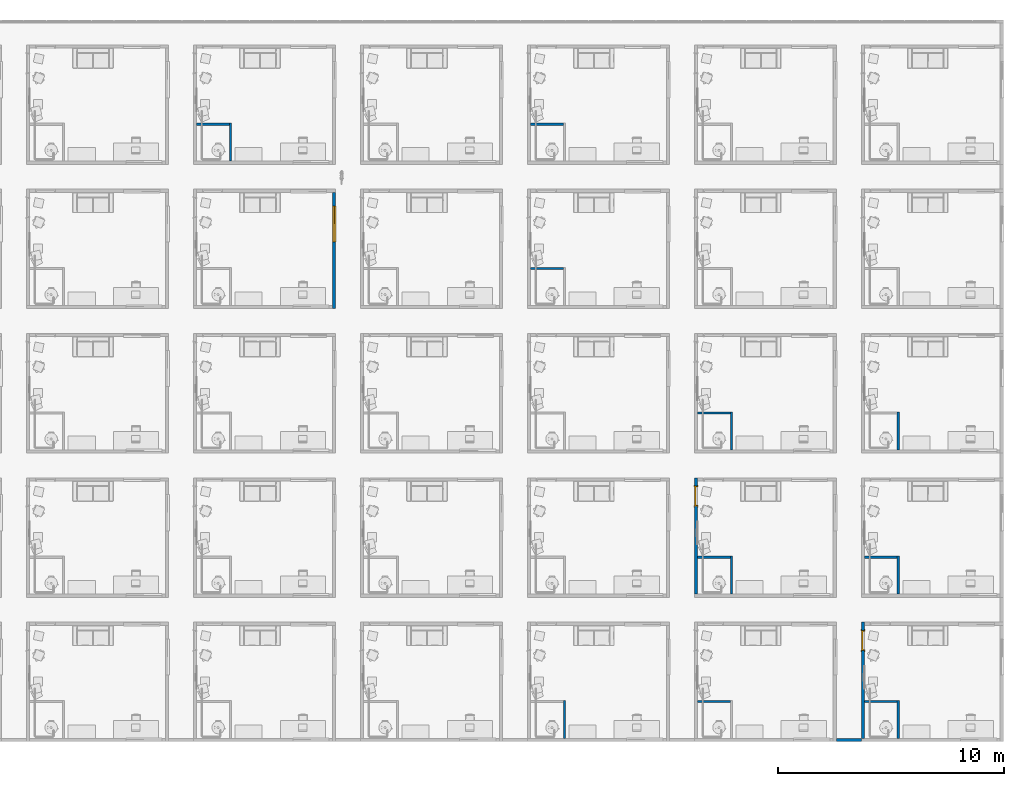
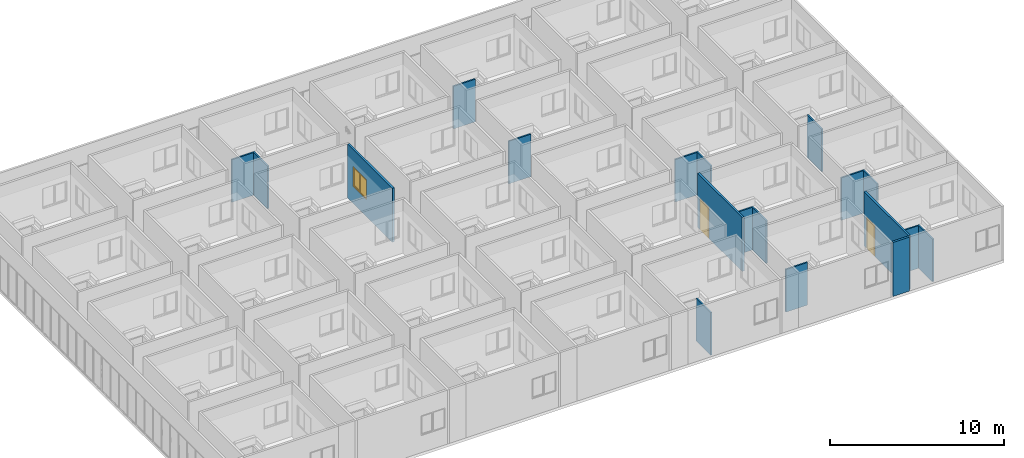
# One storey, part 8 of 69: 19 walls, 2 doors, 1 window, 3 openings.
"""IFC4 building model written with IfcOpenShell, lengths in centimetres."""

from ifc_helpers import new_model, entity, si_unit, converted_unit, derived_unit, direction, frame, origin, place, context, subcontext, project, spatial, indexed_curve, outline, extrude, polygons, source, transform, mapped, material, constituent, constituent_set, type_object, type_shapes, element, fill, save


model = new_model("IFC4")

# Units and contexts
model_context = context("Model", 3, precision=0.001, world=origin(), true_north=direction((6.123233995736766e-17, 1.0)))
body_context = subcontext(model_context, "Body", "Model", "MODEL_VIEW")
ifc_project = project(units=[si_unit("LENGTHUNIT", "METRE", prefix="CENTI"), si_unit("AREAUNIT", "SQUARE_METRE"), si_unit("VOLUMEUNIT", "CUBIC_METRE"), derived_unit("THERMALTRANSMITTANCEUNIT", [(si_unit("MASSUNIT", "GRAM", prefix="KILO"), 1), (si_unit("THERMODYNAMICTEMPERATUREUNIT", "KELVIN"), -1), (si_unit("TIMEUNIT", "SECOND"), -3)]), converted_unit("PLANEANGLEUNIT", "DEGREE", entity("IfcPlaneAngleMeasure", 0.017453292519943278), si_unit("PLANEANGLEUNIT", "RADIAN"), dimensions=[0, 0, 0, 0, 0, 0, 0]), derived_unit("MASSDENSITYUNIT", [(si_unit("MASSUNIT", "GRAM", prefix="KILO"), 1), (si_unit("LENGTHUNIT", "METRE"), -3)]), derived_unit("VAPORPERMEABILITYUNIT", [(si_unit("LENGTHUNIT", "METRE"), -1), (si_unit("TIMEUNIT", "SECOND"), 1)]), derived_unit("USERDEFINED", [(si_unit("MASSUNIT", "GRAM", prefix="KILO"), 1), (si_unit("TIMEUNIT", "SECOND"), -3), (si_unit("LENGTHUNIT", "METRE"), 3), (si_unit("ELECTRICCURRENTUNIT", "AMPERE"), -2)]), derived_unit("SPECIFICHEATCAPACITYUNIT", [(si_unit("THERMODYNAMICTEMPERATUREUNIT", "KELVIN"), -1), (si_unit("LENGTHUNIT", "METRE"), 2), (si_unit("TIMEUNIT", "SECOND"), -2)]), derived_unit("THERMALCONDUCTANCEUNIT", [(si_unit("MASSUNIT", "GRAM", prefix="KILO"), 1), (si_unit("THERMODYNAMICTEMPERATUREUNIT", "KELVIN"), -1), (si_unit("TIMEUNIT", "SECOND"), -3), (si_unit("LENGTHUNIT", "METRE"), 1)]), si_unit("PRESSUREUNIT", "PASCAL"), derived_unit("MODULUSOFELASTICITYUNIT", [(si_unit("MASSUNIT", "GRAM", prefix="KILO"), 1), (si_unit("LENGTHUNIT", "METRE"), -1), (si_unit("TIMEUNIT", "SECOND"), -2)]), derived_unit("THERMALEXPANSIONCOEFFICIENTUNIT", [(si_unit("THERMODYNAMICTEMPERATUREUNIT", "KELVIN"), -1)])], contexts=[model_context])

# Site, building, storey
site_placement = place(None, origin())
site = spatial("IfcSite", under=ifc_project, at=site_placement, Name="Default", CompositionType="ELEMENT")
building_placement = place(site_placement, origin())
building = spatial("IfcBuilding", under=site, at=building_placement, Name="IDS Escape Game Building", CompositionType="ELEMENT")
storey_placement = place(building_placement, origin())
storey = spatial("IfcBuildingStorey", under=building, at=storey_placement, Name="00_Ground Floor", CompositionType="ELEMENT", Elevation=0.0)

# Wall, opening, door
ifc_material_1 = material(Name="ARC_FME.g2_Fg2 Masonry_00_gen_BERSnl", Category="g - klei")
wall_type_1 = type_object("IfcWallType", Name="Basic Wall:ARC_22.10_WA_LB_SB14_gen_BERSnl", PredefinedType="STANDARD")
wall_1_placement = place(storey_placement, frame((4428.0, 527.0, 0.0), z_axis=(0.0, 0.0, 1.0), x_axis=(0.0, -1.0, 0.0)))
wall_1 = element("IfcWall", 1, at=wall_1_placement, inside=storey, type_object=wall_type_1, material=ifc_material_1, Name="Basic Wall:ARC_22.10_WA_LB_SB14_gen_BERSnl", ObjectType="Basic Wall:ARC_22.10_WA_LB_SB14_gen_BERSnl", PredefinedType="NOTDEFINED", context=body_context, shape_type="Tessellation", body=[
    polygons([(513.9999999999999, -7.000000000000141, 380.0), (0.0, -7.000000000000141, 380.0), (0.0, -7.000000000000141, 0.0), (35.99999999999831, -7.000000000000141, 0.0), (35.99999999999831, -7.000000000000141, 215.00000000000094), (125.99999999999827, -7.000000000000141, 215.00000000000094), (125.99999999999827, -7.000000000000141, 0.0), (513.9999999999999, -7.000000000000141, 0.0), (0.0, 7.000000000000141, 380.0), (13.999999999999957, 7.000000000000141, 380.0), (513.9999999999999, 7.000000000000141, 380.0), (513.9999999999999, 7.000000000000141, 0.0), (355.9999999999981, 7.000000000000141, 0.0), (345.9999999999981, 7.000000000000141, 0.0), (125.99999999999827, 7.000000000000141, 0.0), (125.99999999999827, 7.000000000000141, 215.00000000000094), (35.99999999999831, 7.000000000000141, 215.00000000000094), (35.99999999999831, 7.000000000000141, 0.0), (13.999999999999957, 7.000000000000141, 0.0), (0.0, 7.000000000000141, 0.0)], [[[1, 2, 3, 4, 5, 6, 7, 8]], [[9, 10, 11, 12, 13, 14, 15, 16, 17, 18, 19, 20]], [[3, 20, 19, 18, 4]], [[2, 1, 11, 10, 9]], [[17, 5, 4, 18]], [[6, 16, 15, 7]], [[5, 17, 16, 6]], [[3, 2, 9, 20]], [[1, 8, 12, 11]], [[12, 8, 7, 15, 14, 13]]], closed=True),
])
opening_1_placement = place(wall_1_placement, frame((527.0, -4428.0, 0.0), z_axis=(0.0, 0.0, 1.0), x_axis=(0.0, 1.0, 0.0)))
opening_1 = element("IfcOpeningElement", 2, at=opening_1_placement, cuts=wall_1, Name="Basic Wall:ARC_22.10_WA_LB_SB14_gen_BERSnl", PredefinedType="OPENING", context=body_context, shape_type="SweptSolid", body=[
    extrude(outline(indexed_curve([(-137.49999999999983, -45.0), (137.49999999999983, -45.0), (137.49999999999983, 44.99999999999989), (-137.49999999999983, 44.99999999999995), (-137.49999999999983, -45.0)], self_intersect=False)), frame((4338.0, 446.0, 77.50000000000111), z_axis=(1.0, 0.0, 0.0), x_axis=(0.0, 0.0, 1.0)), (0.0, 0.0, 1.0), 166.00000000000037),
])
ifc_material_2 = material(Name="ARC_FME.i3_wood_00_gen_BERSnl", Category="i - hout")
door_type = type_object("IfcDoorType", Name="ARC_32.30_DO_WB_binnendeur enkel draaiend met void_gen_BERSnl:Fire Exit_830x2115_EI60", OperationType="SINGLE_SWING_RIGHT", PredefinedType="DOOR", material=ifc_material_2)
shared_shape_1 = source(origin(), body_context, "Body", "Tessellation", [
    extrude(outline(indexed_curve([(-41.49999999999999, -3.749999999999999), (41.49999999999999, -3.749999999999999), (41.49999999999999, 3.75), (-41.49999999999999, 3.75), (-41.49999999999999, -3.749999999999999)], self_intersect=False)), frame((45.0, 79.24999999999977, 60.0), z_axis=(0.0, 0.0, 1.0), x_axis=(-1.0, 0.0, 0.0)), (0.0, 0.0, 1.0), 211.50000000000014),
    polygons([(88.99999999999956, 82.99999999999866, 59.999999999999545), (88.9999999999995, 67.99999999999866, 59.999999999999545), (94.99999999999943, 67.99999999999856, 59.999999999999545), (94.99999999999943, 66.49999999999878, 59.999999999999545), (84.99999999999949, 66.4999999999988, 59.999999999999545), (84.99999999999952, 75.49999999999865, 59.999999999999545), (86.49999999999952, 75.49999999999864, 59.999999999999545), (86.49999999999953, 84.49999999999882, 59.999999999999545), (94.99999999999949, 84.49999999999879, 59.999999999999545), (94.99999999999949, 82.99999999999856, 59.999999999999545), (88.99999999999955, 82.99999999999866, 274.0000000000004), (88.9999999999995, 67.99999999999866, 274.0000000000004), (0.9999999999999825, 67.99999999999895, 274.0000000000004), (0.9999999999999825, 67.99999999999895, 59.99999999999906), (-4.999999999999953, 67.99999999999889, 59.99999999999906), (-4.999999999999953, 67.99999999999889, 280.00000000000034), (94.99999999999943, 67.99999999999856, 280.00000000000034), (94.99999999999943, 66.49999999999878, 280.00000000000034), (-4.999999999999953, 66.4999999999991, 280.00000000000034), (-4.999999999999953, 66.4999999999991, 59.99999999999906), (4.999999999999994, 66.49999999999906, 59.99999999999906), (4.999999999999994, 66.49999999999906, 270.00000000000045), (84.99999999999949, 66.4999999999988, 270.00000000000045), (84.99999999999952, 75.49999999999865, 270.00000000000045), (5.000000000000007, 75.4999999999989, 270.00000000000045), (5.0, 75.4999999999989, 59.99999999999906), (3.5000000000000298, 75.4999999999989, 59.99999999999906), (3.500000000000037, 75.4999999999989, 271.50000000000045), (86.4999999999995, 75.49999999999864, 271.50000000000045), (86.49999999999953, 84.49999999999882, 271.50000000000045), (3.5000000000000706, 84.49999999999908, 271.50000000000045), (3.500000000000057, 84.49999999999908, 59.99999999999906), (-4.999999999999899, 84.4999999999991, 59.99999999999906), (-4.999999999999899, 84.4999999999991, 280.00000000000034), (94.99999999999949, 84.49999999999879, 280.00000000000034), (94.99999999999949, 82.99999999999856, 280.00000000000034), (-4.999999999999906, 82.99999999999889, 280.00000000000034), (-4.999999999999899, 82.99999999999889, 59.99999999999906), (1.0000000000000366, 82.99999999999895, 59.99999999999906), (1.0000000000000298, 82.99999999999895, 274.0000000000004)], [[[1, 2, 3, 4, 5, 6, 7, 8, 9, 10]], [[2, 1, 11, 12]], [[3, 2, 12, 13, 14, 15, 16, 17]], [[4, 3, 17, 18]], [[5, 4, 18, 19, 20, 21, 22, 23]], [[6, 5, 23, 24]], [[7, 6, 24, 25, 26, 27, 28, 29]], [[8, 7, 29, 30]], [[9, 8, 30, 31, 32, 33, 34, 35]], [[10, 9, 35, 36]], [[1, 10, 36, 37, 38, 39, 40, 11]], [[37, 34, 33, 38]], [[39, 38, 33, 32, 27, 26, 21, 20, 15, 14]], [[13, 40, 39, 14]], [[31, 28, 27, 32]], [[25, 22, 21, 26]], [[19, 16, 15, 20]], [[36, 35, 34, 37]], [[30, 29, 28, 31]], [[24, 23, 22, 25]], [[18, 17, 16, 19]], [[12, 11, 40, 13]]], closed=True),
])
type_shapes(door_type, [shared_shape_1])
door_1_placement = place(opening_1_placement, frame((4504.0, 401.0, -60.0), z_axis=(0.0, 0.0, 1.0), x_axis=(0.0, 1.0, 0.0)))
door_1 = element("IfcDoor", 3, at=door_1_placement, inside=storey, type_object=door_type, material=ifc_material_2, Name="ARC_32.30_DO_WB_binnendeur enkel draaiend met void_gen_BERSnl:Fire Exit_830x2115_EI60", ObjectType="ARC_32.30_DO_WB_binnendeur enkel draaiend met void_gen_BERSnl:Fire Exit_830x2115_EI60", OverallHeight=274.99999999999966, OverallWidth=89.9999999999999, PredefinedType="DOOR", context=body_context, shape_type="MappedRepresentation", body=[
    mapped(shared_shape_1, transform((0.0, 0.0, 0.0), scale=1.0)),
])
fill(opening_1, door_1)

wall_2_placement = place(storey_placement, frame((3690.0, 1165.0, 0.0), z_axis=(0.0, 0.0, 1.0), x_axis=(0.0, -1.0, 0.0)))
wall_2 = element("IfcWall", 4, at=wall_2_placement, inside=storey, type_object=wall_type_1, material=ifc_material_1, Name="Basic Wall:ARC_22.10_WA_LB_SB14_gen_BERSnl", ObjectType="Basic Wall:ARC_22.10_WA_LB_SB14_gen_BERSnl", PredefinedType="NOTDEFINED", context=body_context, shape_type="Tessellation", body=[
    polygons([(514.0000000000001, -6.999999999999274, 380.0), (0.0, -6.999999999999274, 380.0), (0.0, -6.999999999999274, 0.0), (35.99999999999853, -6.999999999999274, 0.0), (35.99999999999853, -6.999999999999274, 215.00000000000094), (125.99999999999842, -6.999999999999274, 215.00000000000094), (125.99999999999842, -6.999999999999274, 0.0), (514.0000000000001, -6.999999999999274, 0.0), (0.0, 7.000000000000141, 380.0), (14.000000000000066, 7.000000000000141, 380.0), (514.0000000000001, 7.000000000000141, 380.0), (514.0000000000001, 7.000000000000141, 0.0), (355.99999999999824, 7.000000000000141, 0.0), (345.99999999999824, 7.000000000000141, 0.0), (125.99999999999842, 7.000000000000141, 0.0), (125.99999999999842, 7.000000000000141, 215.00000000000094), (35.99999999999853, 7.000000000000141, 215.00000000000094), (35.99999999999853, 7.000000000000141, 0.0), (14.000000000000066, 7.000000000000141, 0.0), (0.0, 7.000000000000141, 0.0)], [[[1, 2, 3, 4, 5, 6, 7, 8]], [[9, 10, 11, 12, 13, 14, 15, 16, 17, 18, 19, 20]], [[3, 20, 19, 18, 4]], [[2, 1, 11, 10, 9]], [[17, 5, 4, 18]], [[6, 16, 15, 7]], [[5, 17, 16, 6]], [[3, 2, 9, 20]], [[1, 8, 12, 11]], [[12, 8, 7, 15, 14, 13]]], closed=True),
])
opening_2_placement = place(wall_2_placement, frame((1165.0, -3690.0, 0.0), z_axis=(0.0, 0.0, 1.0), x_axis=(0.0, 1.0, 0.0)))
opening_2 = element("IfcOpeningElement", 5, at=opening_2_placement, cuts=wall_2, Name="Basic Wall:ARC_22.10_WA_LB_SB14_gen_BERSnl", PredefinedType="OPENING", context=body_context, shape_type="SweptSolid", body=[
    extrude(outline(indexed_curve([(-137.49999999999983, -44.99999999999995), (137.49999999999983, -44.99999999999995), (137.49999999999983, 44.99999999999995), (-137.49999999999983, 44.99999999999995), (-137.49999999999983, -44.99999999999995)], self_intersect=False)), frame((3600.0, 1084.0, 77.50000000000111), z_axis=(1.0, 0.0, 0.0), x_axis=(0.0, 0.0, 1.0)), (0.0, 0.0, 1.0), 166.00000000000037),
])
door_2_placement = place(opening_2_placement, frame((3766.0, 1039.0, -60.0), z_axis=(0.0, 0.0, 1.0), x_axis=(0.0, 1.0, 0.0)))
door_2 = element("IfcDoor", 6, at=door_2_placement, inside=storey, type_object=door_type, material=ifc_material_2, Name="ARC_32.30_DO_WB_binnendeur enkel draaiend met void_gen_BERSnl:Fire Exit_830x2115_EI60", ObjectType="ARC_32.30_DO_WB_binnendeur enkel draaiend met void_gen_BERSnl:Fire Exit_830x2115_EI60", OverallHeight=274.99999999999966, OverallWidth=89.9999999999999, PredefinedType="DOOR", context=body_context, shape_type="MappedRepresentation", body=[
    mapped(shared_shape_1, transform((0.0, 0.0, 0.0), scale=1.0)),
])
fill(opening_2, door_2)

# Wall, opening, window
wall_3_placement = place(storey_placement, frame((2090.0, 1913.0, 0.0), z_axis=(0.0, 0.0, 1.0), x_axis=(0.0, 1.0, 0.0)))
wall_3 = element("IfcWall", 7, at=wall_3_placement, inside=storey, type_object=wall_type_1, material=ifc_material_1, Name="Basic Wall:ARC_22.10_WA_LB_SB14_gen_BERSnl", ObjectType="Basic Wall:ARC_22.10_WA_LB_SB14_gen_BERSnl", PredefinedType="NOTDEFINED", context=body_context, shape_type="Tessellation", body=[
    polygons([(0.0, -6.999999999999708, 0.0), (513.9999999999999, -6.999999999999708, 0.0), (513.9999999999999, -6.999999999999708, 380.0), (0.0, -6.999999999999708, 380.0), (454.00000000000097, -6.999999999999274, 260.00000000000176), (454.00000000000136, -6.999999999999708, 120.0), (294.00000000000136, -6.999999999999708, 120.00000000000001), (294.00000000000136, -6.999999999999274, 260.00000000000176), (454.00000000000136, 7.000000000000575, 120.0), (454.00000000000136, 7.000000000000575, 260.0000000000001), (294.00000000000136, 7.000000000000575, 260.0000000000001), (294.00000000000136, 7.000000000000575, 120.00000000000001), (0.0, 7.000000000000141, 0.0), (0.0, 7.000000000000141, 380.0), (14.000000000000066, 7.000000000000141, 380.0), (513.9999999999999, 7.000000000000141, 380.0), (513.9999999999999, 7.000000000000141, 0.0), (14.000000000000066, 7.000000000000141, 0.0)], [[[1, 2, 3, 4], [5, 6, 7, 8]], [[13, 14, 15, 16, 17, 18], [9, 10, 11, 12]], [[2, 1, 13, 18, 17]], [[4, 3, 16, 15, 14]], [[10, 9, 6, 5]], [[7, 12, 11, 8]], [[10, 5, 8, 11]], [[12, 7, 6, 9]], [[1, 4, 14, 13]], [[3, 2, 17, 16]]], closed=True),
])
opening_3_placement = place(wall_3_placement, frame((-1913.0, 2090.0, 120.0), z_axis=(0.0, 0.0, 1.0), x_axis=(0.0, -1.0, 0.0)))
opening_3 = element("IfcOpeningElement", 8, at=opening_3_placement, cuts=wall_3, Name="Basic Wall:ARC_22.10_WA_LB_SB14_gen_BERSnl", PredefinedType="OPENING", context=body_context, shape_type="Tessellation", body=[
    polygons([(2082.9999999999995, 2367.0000000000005, 0.0), (2082.9999999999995, 2367.0000000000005, -1.0), (2077.999999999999, 2367.0000000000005, -1.0), (2077.999999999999, 2367.0000000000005, 0.0), (2082.9999999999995, 2207.0000000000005, 0.0), (2077.999999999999, 2207.0000000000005, 0.0), (2077.999999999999, 2207.0000000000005, -1.0), (2082.9999999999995, 2207.0000000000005, -1.0), (2082.999999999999, 2362.0000000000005, 0.0), (2082.999999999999, 2212.0000000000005, 0.0), (2077.9999999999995, 2212.0000000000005, 0.0), (2077.9999999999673, 2212.0, 134.9999999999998), (2077.9999999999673, 2362.0000000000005, 134.9999999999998), (2077.9999999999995, 2362.0000000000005, 0.0), (2102.0368251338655, 2367.0000000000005, 0.0), (2082.999999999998, 2367.0000000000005, 0.0), (2082.9999999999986, 2367.0000000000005, 140.00000000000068), (2102.036825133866, 2367.0000000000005, 140.00000000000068), (2102.0368251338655, 2207.0000000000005, 140.0000000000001), (2082.999999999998, 2207.0000000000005, 140.0000000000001), (2082.9999999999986, 2207.0000000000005, 0.0), (2102.0368251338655, 2207.0000000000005, 0.0), (2082.9999999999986, 2362.0000000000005, 134.9999999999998), (2082.999999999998, 2212.0, 134.9999999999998)], [[[1, 2, 3, 4]], [[5, 6, 7, 8]], [[1, 9, 10, 5, 8, 2]], [[2, 8, 7, 3]], [[3, 7, 6, 11, 12, 13, 14, 4]], [[4, 14, 9, 1]], [[15, 16, 17, 18]], [[19, 20, 21, 22]], [[18, 17, 20, 19]], [[18, 19, 22, 15]], [[17, 16, 9, 23, 24, 10, 21, 20]], [[22, 21, 10, 9, 16, 15]], [[11, 10, 24, 12]], [[13, 23, 9, 14]], [[12, 24, 23, 13]], [[5, 10, 11, 6]]], closed=True),
])
ifc_material_3 = material(Name="<Unnamed>")
ifc_constituent_1 = constituent(ifc_material_3, Name="<Unnamed>", fraction=0.0)
ifc_material_4 = material(Name="ARC_FME.o1_glass_00_gen_BERSnl", Category="o - glas")
ifc_constituent_2 = constituent(ifc_material_4, Name="ARC_FME.o1_glass_00_gen_BERSnl", Category="o - glas", fraction=1.0)
ifc_constituent_set_1 = constituent_set(constituents=[ifc_constituent_1, ifc_constituent_2])
ifc_constituent_3 = constituent(ifc_material_3, Name="BE Tablet", fraction=0.0)
ifc_constituent_4 = constituent(ifc_material_3, Name="Frame/Mullion", fraction=0.0)
ifc_constituent_5 = constituent(ifc_material_4, Name="Glass", Category="o - glas", fraction=1.0)
ifc_constituent_set_2 = constituent_set(constituents=[ifc_constituent_3, ifc_constituent_4, ifc_constituent_5])
window_type = type_object("IfcWindowType", Name="ARC_31_WI_WB_Dubbel Raam-Recht-Vast en Draaiend_gen_BERSnl:Links-Draaiend / Rechts-Draaiend", PartitioningType="NOTDEFINED", PredefinedType="WINDOW", material=ifc_constituent_set_2)
shared_shape_2 = source(origin(), body_context, "Body", "Tessellation", [
    extrude(outline(indexed_curve([(-80.00000000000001, -4.999999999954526), (80.00000000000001, -4.999999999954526), (80.00000000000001, 4.999999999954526), (-80.00000000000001, 4.999999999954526), (-80.00000000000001, -4.999999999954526)], self_intersect=False)), frame((80.0, 7.036825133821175, 1.0), z_axis=(0.0, 0.0, 1.0), x_axis=(-1.0, 0.0, 0.0)), (0.0, 0.0, 1.0), 2.000000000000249),
    extrude(outline(indexed_curve([(-2.9999999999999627, -3.000000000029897), (-7.656209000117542e-14, -3.000000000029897), (-7.064016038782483e-14, 5.979964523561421e-11), (3.0000000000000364, 5.978991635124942e-11), (3.0000000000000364, 2.9999999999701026), (-2.9999999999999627, 2.9999999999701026), (-2.9999999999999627, -3.000000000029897)], self_intersect=False)), frame((80.0, 15.03682513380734, 7.0)), (0.0, 0.0, 1.0), 128.00000000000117),
    extrude(outline(indexed_curve([(-35.499999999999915, -1.2000000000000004), (35.499999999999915, -1.2000000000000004), (35.49999999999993, 1.2), (-35.499999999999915, 1.2), (-35.499999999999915, -1.2000000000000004)], self_intersect=False)), frame((41.50000000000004, 15.036825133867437, 7.0), z_axis=(0.0, 0.0, 1.0), x_axis=(-1.0, 0.0, 0.0)), (0.0, 0.0, 1.0), 128.000000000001),
    extrude(outline(indexed_curve([(-67.00000000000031, -38.500000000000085), (67.00000000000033, -38.5000000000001), (67.00000000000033, 38.50000000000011), (-67.00000000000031, 38.50000000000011), (-67.00000000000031, -38.500000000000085)], self_intersect=False), holes=[indexed_curve([(61.00000000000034, -32.50000000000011), (-61.00000000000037, -32.500000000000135), (-61.00000000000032, 32.50000000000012), (61.00000000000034, 32.50000000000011), (61.00000000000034, -32.50000000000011)], self_intersect=False)]), frame((118.5, 9.03682513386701, 71.0), z_axis=(0.0, 1.0, 0.0), x_axis=(0.0, 0.0, -1.0)), (0.0, 0.0, 1.0), 6.0),
    extrude(outline(indexed_curve([(-32.500000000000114, -1.2000000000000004), (32.500000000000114, -1.2000000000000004), (32.500000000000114, 1.2000000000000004), (-32.500000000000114, 1.2000000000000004), (-32.500000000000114, -1.2000000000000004)], self_intersect=False)), frame((118.5, 12.036825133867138, 10.0), z_axis=(0.0, 0.0, 1.0), x_axis=(-1.0, 0.0, 0.0)), (0.0, 0.0, 1.0), 122.00000000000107),
    polygons([(160.00000000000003, 18.03682513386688, 141.00000000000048), (160.00000000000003, 18.03682513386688, 1.0000000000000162), (4.0607517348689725e-14, 18.036825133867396, 1.0000000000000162), (4.0607517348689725e-14, 18.036825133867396, 141.00000000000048), (6.000000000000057, 18.03682513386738, 135.00000000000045), (6.000000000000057, 18.03682513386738, 7.000000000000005), (76.99999999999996, 18.03682513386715, 7.000000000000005), (154.00000000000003, 18.0368251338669, 7.000000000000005), (154.00000000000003, 18.0368251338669, 135.00000000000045), (76.99999999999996, 18.03682513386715, 135.00000000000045), (160.0, 12.03682513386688, 141.00000000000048), (160.0, 12.03682513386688, 1.0000000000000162), (2.7071678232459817e-14, 12.036825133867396, 1.0000000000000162), (2.7071678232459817e-14, 12.036825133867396, 141.00000000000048), (6.000000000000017, 12.036825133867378, 135.00000000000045), (6.000000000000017, 12.036825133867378, 7.000000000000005), (76.99999999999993, 12.036825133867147, 7.000000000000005), (79.99999999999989, 12.036825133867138, 7.000000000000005), (79.9999999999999, 15.036825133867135, 7.000000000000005), (154.00000000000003, 15.0368251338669, 7.000000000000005), (154.00000000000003, 15.036825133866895, 135.00000000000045), (76.99999999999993, 12.036825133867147, 135.00000000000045), (79.99999999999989, 12.036825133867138, 135.00000000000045), (79.99999999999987, 12.036825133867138, 138.00000000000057), (157.00000000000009, 12.036825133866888, 138.00000000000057), (157.00000000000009, 12.036825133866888, 3.9999999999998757), (79.99999999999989, 12.036825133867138, 3.9999999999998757), (157.0000000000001, 15.036825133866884, 3.9999999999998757), (157.0000000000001, 15.036825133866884, 138.00000000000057), (79.99999999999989, 15.036825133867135, 3.9999999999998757), (79.99999999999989, 15.036825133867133, 138.00000000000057), (79.99999999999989, 15.036825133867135, 135.00000000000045)], [[[1, 2, 3, 4], [5, 6, 7, 8, 9, 10]], [[2, 1, 11, 12]], [[3, 2, 12, 13]], [[4, 3, 13, 14]], [[6, 5, 15, 16]], [[6, 16, 17, 18, 19, 20, 8, 7]], [[9, 8, 20, 21]], [[11, 14, 13, 12], [16, 15, 22, 23, 24, 25, 26, 27, 18, 17]], [[28, 26, 25, 29]], [[30, 27, 26, 28]], [[31, 24, 23, 32]], [[30, 28, 29, 31, 32, 21, 20, 19]], [[1, 4, 14, 11]], [[15, 5, 10, 9, 21, 32, 23, 22]], [[24, 31, 29, 25]], [[27, 30, 19, 18]]], closed=True),
])
type_shapes(window_type, [shared_shape_2])
window_placement = place(opening_3_placement, frame((2102.0368251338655, 2207.0, -1.0), z_axis=(0.0, 0.0, 1.0), x_axis=(0.0, 1.0, 0.0)))
window = element("IfcWindow", 9, at=window_placement, inside=storey, type_object=window_type, material=ifc_constituent_set_1, Name="ARC_31_WI_WB_Dubbel Raam-Recht-Vast en Draaiend_gen_BERSnl:Links-Draaiend / Rechts-Draaiend", ObjectType="ARC_31_WI_WB_Dubbel Raam-Recht-Vast en Draaiend_gen_BERSnl:Links-Draaiend / Rechts-Draaiend", OverallHeight=140.00000000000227, OverallWidth=160.0000000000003, PartitioningType="NOTDEFINED", PredefinedType="WINDOW", context=body_context, shape_type="MappedRepresentation", body=[
    mapped(shared_shape_2, transform((0.0, 0.0, 0.0), scale=1.0)),
])
fill(opening_3, window)

# Walls
wall_4_placement = place(storey_placement, frame((4421.0, 6.0, 0.0), z_axis=(0.0, 0.0, 1.0), x_axis=(-1.0, 0.0, 0.0)))
element("IfcWall", 10, at=wall_4_placement, inside=storey, type_object=wall_type_1, material=ifc_material_1, Name="Basic Wall:ARC_22.10_WA_LB_SB14_gen_BERSnl", ObjectType="Basic Wall:ARC_22.10_WA_LB_SB14_gen_BERSnl", PredefinedType="NOTDEFINED", context=body_context, shape_type="SweptSolid", body=[
    extrude(outline(indexed_curve([(109.99999999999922, 6.999999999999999), (-2.2611003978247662e-14, 7.0), (2.2611003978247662e-14, -6.999999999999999), (109.99999999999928, -6.999999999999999), (109.99999999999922, 6.999999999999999)], self_intersect=False)), origin(), (0.0, 0.0, 1.0), 380.0),
])
ifc_material_5 = material(Name="ARC_FME.r2_Plaster_white_gen_BERSnl", Category="r - klei, gips, magnesium en kunststof bindmiddelen")
wall_type_2 = type_object("IfcWallType", Name="Basic Wall:ARC_22.10_WA_LB_GPS10_gen_BERSnl", PredefinedType="STANDARD")
wall_5_placement = place(storey_placement, frame((3109.0, 13.0, 0.0), z_axis=(0.0, 0.0, 1.0), x_axis=(0.0, 1.0, 0.0)))
element("IfcWall", 11, at=wall_5_placement, inside=storey, type_object=wall_type_2, material=ifc_material_5, Name="Basic Wall:ARC_22.10_WA_LB_GPS10_gen_BERSnl", ObjectType="Basic Wall:ARC_22.10_WA_LB_GPS10_gen_BERSnl", PredefinedType="NOTDEFINED", context=body_context, shape_type="SweptSolid", body=[
    extrude(outline(indexed_curve([(168.00000000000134, 4.9999999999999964), (-1.1881077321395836e-15, 5.0000000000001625), (-5.038721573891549e-16, -5.0000000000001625), (168.00000000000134, -5.000000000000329), (168.00000000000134, 4.9999999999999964)], self_intersect=False)), origin(), (0.0, 0.0, 1.0), 300.0),
])
wall_6_placement = place(storey_placement, frame((3842.0, 176.0, 0.0), z_axis=(0.0, 0.0, 1.0), x_axis=(-1.0, 0.0, 0.0)))
element("IfcWall", 12, at=wall_6_placement, inside=storey, type_object=wall_type_2, material=ifc_material_5, Name="Basic Wall:ARC_22.10_WA_LB_GPS10_gen_BERSnl", ObjectType="Basic Wall:ARC_22.10_WA_LB_GPS10_gen_BERSnl", PredefinedType="NOTDEFINED", context=body_context, shape_type="SweptSolid", body=[
    extrude(outline(indexed_curve([(144.99999999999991, 5.000000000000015), (-1.6380951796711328e-14, 5.0), (1.6380951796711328e-14, -5.0), (144.99999999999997, -4.999999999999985), (144.99999999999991, 5.000000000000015)], self_intersect=False)), origin(), (0.0, 0.0, 1.0), 300.0),
])
wall_7_placement = place(storey_placement, frame((4585.0, 13.0, 0.0), z_axis=(0.0, 0.0, 1.0), x_axis=(0.0, 1.0, 0.0)))
element("IfcWall", 13, at=wall_7_placement, inside=storey, type_object=wall_type_2, material=ifc_material_5, Name="Basic Wall:ARC_22.10_WA_LB_GPS10_gen_BERSnl", ObjectType="Basic Wall:ARC_22.10_WA_LB_GPS10_gen_BERSnl", PredefinedType="NOTDEFINED", context=body_context, shape_type="SweptSolid", body=[
    extrude(outline(indexed_curve([(168.00000000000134, 4.9999999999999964), (-1.1881077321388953e-15, 4.999999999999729), (-5.038721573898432e-16, -4.999999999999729), (168.00000000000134, -4.999999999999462), (168.00000000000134, 4.9999999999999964)], self_intersect=False)), origin(), (0.0, 0.0, 1.0), 300.0),
])
wall_8_placement = place(storey_placement, frame((4580.0, 176.0, 0.0), z_axis=(0.0, 0.0, 1.0), x_axis=(-1.0, 0.0, 0.0)))
element("IfcWall", 14, at=wall_8_placement, inside=storey, type_object=wall_type_2, material=ifc_material_5, Name="Basic Wall:ARC_22.10_WA_LB_GPS10_gen_BERSnl", ObjectType="Basic Wall:ARC_22.10_WA_LB_GPS10_gen_BERSnl", PredefinedType="NOTDEFINED", context=body_context, shape_type="SweptSolid", body=[
    extrude(outline(indexed_curve([(144.99999999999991, 5.000000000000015), (-1.6380951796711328e-14, 5.0), (1.6380951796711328e-14, -5.0), (144.99999999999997, -4.999999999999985), (144.99999999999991, 5.000000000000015)], self_intersect=False)), origin(), (0.0, 0.0, 1.0), 300.0),
])
wall_9_placement = place(storey_placement, frame((3847.0, 651.0, 0.0), z_axis=(0.0, 0.0, 1.0), x_axis=(0.0, 1.0, 0.0)))
element("IfcWall", 15, at=wall_9_placement, inside=storey, type_object=wall_type_2, material=ifc_material_5, Name="Basic Wall:ARC_22.10_WA_LB_GPS10_gen_BERSnl", ObjectType="Basic Wall:ARC_22.10_WA_LB_GPS10_gen_BERSnl", PredefinedType="NOTDEFINED", context=body_context, shape_type="SweptSolid", body=[
    extrude(outline(indexed_curve([(168.00000000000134, 4.9999999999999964), (-7.956027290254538e-15, 5.0000000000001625), (7.956027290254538e-15, -5.0000000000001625), (168.00000000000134, -5.000000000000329), (168.00000000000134, 4.9999999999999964)], self_intersect=False)), origin(), (0.0, 0.0, 1.0), 300.0),
])
wall_10_placement = place(storey_placement, frame((3842.0, 814.0, 0.0), z_axis=(0.0, 0.0, 1.0), x_axis=(-1.0, 0.0, 0.0)))
element("IfcWall", 16, at=wall_10_placement, inside=storey, type_object=wall_type_2, material=ifc_material_5, Name="Basic Wall:ARC_22.10_WA_LB_GPS10_gen_BERSnl", ObjectType="Basic Wall:ARC_22.10_WA_LB_GPS10_gen_BERSnl", PredefinedType="NOTDEFINED", context=body_context, shape_type="SweptSolid", body=[
    extrude(outline(indexed_curve([(144.99999999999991, 4.99999999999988), (-1.6380951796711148e-14, 4.999999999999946), (1.6380951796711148e-14, -4.999999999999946), (144.99999999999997, -5.000000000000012), (144.99999999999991, 4.99999999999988)], self_intersect=False)), origin(), (0.0, 0.0, 1.0), 300.0),
])
wall_11_placement = place(storey_placement, frame((4585.0, 651.0, 0.0), z_axis=(0.0, 0.0, 1.0), x_axis=(0.0, 1.0, 0.0)))
element("IfcWall", 17, at=wall_11_placement, inside=storey, type_object=wall_type_2, material=ifc_material_5, Name="Basic Wall:ARC_22.10_WA_LB_GPS10_gen_BERSnl", ObjectType="Basic Wall:ARC_22.10_WA_LB_GPS10_gen_BERSnl", PredefinedType="NOTDEFINED", context=body_context, shape_type="SweptSolid", body=[
    extrude(outline(indexed_curve([(168.00000000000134, 4.9999999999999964), (-7.95602729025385e-15, 4.999999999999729), (7.95602729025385e-15, -4.999999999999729), (168.00000000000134, -4.999999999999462), (168.00000000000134, 4.9999999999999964)], self_intersect=False)), origin(), (0.0, 0.0, 1.0), 300.0),
])
wall_12_placement = place(storey_placement, frame((4580.0, 814.0, 0.0), z_axis=(0.0, 0.0, 1.0), x_axis=(-1.0, 0.0, 0.0)))
element("IfcWall", 18, at=wall_12_placement, inside=storey, type_object=wall_type_2, material=ifc_material_5, Name="Basic Wall:ARC_22.10_WA_LB_GPS10_gen_BERSnl", ObjectType="Basic Wall:ARC_22.10_WA_LB_GPS10_gen_BERSnl", PredefinedType="NOTDEFINED", context=body_context, shape_type="SweptSolid", body=[
    extrude(outline(indexed_curve([(144.99999999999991, 4.99999999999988), (-1.6380951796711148e-14, 4.999999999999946), (1.6380951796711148e-14, -4.999999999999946), (144.99999999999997, -5.000000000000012), (144.99999999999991, 4.99999999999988)], self_intersect=False)), origin(), (0.0, 0.0, 1.0), 300.0),
])
wall_13_placement = place(storey_placement, frame((3847.0, 1289.0, 0.0), z_axis=(0.0, 0.0, 1.0), x_axis=(0.0, 1.0, 0.0)))
element("IfcWall", 19, at=wall_13_placement, inside=storey, type_object=wall_type_2, material=ifc_material_5, Name="Basic Wall:ARC_22.10_WA_LB_GPS10_gen_BERSnl", ObjectType="Basic Wall:ARC_22.10_WA_LB_GPS10_gen_BERSnl", PredefinedType="NOTDEFINED", context=body_context, shape_type="SweptSolid", body=[
    extrude(outline(indexed_curve([(168.00000000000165, 4.9999999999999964), (-7.956027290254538e-15, 5.0000000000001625), (7.956027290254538e-15, -5.0000000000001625), (168.00000000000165, -5.000000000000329), (168.00000000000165, 4.9999999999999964)], self_intersect=False)), origin(), (0.0, 0.0, 1.0), 300.0),
])
wall_14_placement = place(storey_placement, frame((3842.0, 1452.0, 0.0), z_axis=(0.0, 0.0, 1.0), x_axis=(-1.0, 0.0, 0.0)))
element("IfcWall", 20, at=wall_14_placement, inside=storey, type_object=wall_type_2, material=ifc_material_5, Name="Basic Wall:ARC_22.10_WA_LB_GPS10_gen_BERSnl", ObjectType="Basic Wall:ARC_22.10_WA_LB_GPS10_gen_BERSnl", PredefinedType="NOTDEFINED", context=body_context, shape_type="SweptSolid", body=[
    extrude(outline(indexed_curve([(144.99999999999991, 4.9999999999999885), (-1.6380951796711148e-14, 4.999999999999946), (1.6380951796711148e-14, -4.999999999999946), (144.99999999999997, -4.999999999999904), (144.99999999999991, 4.9999999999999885)], self_intersect=False)), origin(), (0.0, 0.0, 1.0), 300.0),
])
wall_15_placement = place(storey_placement, frame((4585.0, 1289.0, 0.0), z_axis=(0.0, 0.0, 1.0), x_axis=(0.0, 1.0, 0.0)))
element("IfcWall", 21, at=wall_15_placement, inside=storey, type_object=wall_type_2, material=ifc_material_5, Name="Basic Wall:ARC_22.10_WA_LB_GPS10_gen_BERSnl", ObjectType="Basic Wall:ARC_22.10_WA_LB_GPS10_gen_BERSnl", PredefinedType="NOTDEFINED", context=body_context, shape_type="SweptSolid", body=[
    extrude(outline(indexed_curve([(168.00000000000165, 4.9999999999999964), (-7.95602729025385e-15, 4.999999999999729), (7.95602729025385e-15, -4.999999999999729), (168.00000000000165, -4.999999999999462), (168.00000000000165, 4.9999999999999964)], self_intersect=False)), origin(), (0.0, 0.0, 1.0), 300.0),
])
wall_16_placement = place(storey_placement, frame((3104.0, 2090.0, 0.0), z_axis=(0.0, 0.0, 1.0), x_axis=(-1.0, 0.0, 0.0)))
element("IfcWall", 22, at=wall_16_placement, inside=storey, type_object=wall_type_2, material=ifc_material_5, Name="Basic Wall:ARC_22.10_WA_LB_GPS10_gen_BERSnl", ObjectType="Basic Wall:ARC_22.10_WA_LB_GPS10_gen_BERSnl", PredefinedType="NOTDEFINED", context=body_context, shape_type="SweptSolid", body=[
    extrude(outline(indexed_curve([(144.99999999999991, 5.000000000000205), (-1.6380951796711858e-14, 5.0000000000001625), (1.6380951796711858e-14, -5.0000000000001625), (144.99999999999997, -5.00000000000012), (144.99999999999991, 5.000000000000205)], self_intersect=False)), origin(), (0.0, 0.0, 1.0), 300.0),
])
wall_17_placement = place(storey_placement, frame((1633.0, 2565.0, 0.0), z_axis=(0.0, 0.0, 1.0), x_axis=(0.0, 1.0, 0.0)))
element("IfcWall", 23, at=wall_17_placement, inside=storey, type_object=wall_type_2, material=ifc_material_5, Name="Basic Wall:ARC_22.10_WA_LB_GPS10_gen_BERSnl", ObjectType="Basic Wall:ARC_22.10_WA_LB_GPS10_gen_BERSnl", PredefinedType="NOTDEFINED", context=body_context, shape_type="SweptSolid", body=[
    extrude(outline(indexed_curve([(168.00000000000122, 4.9999999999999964), (-7.956027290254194e-15, 4.999999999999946), (7.956027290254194e-15, -4.999999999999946), (168.00000000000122, -4.999999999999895), (168.00000000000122, 4.9999999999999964)], self_intersect=False)), origin(), (0.0, 0.0, 1.0), 300.0),
])
wall_18_placement = place(storey_placement, frame((1628.0, 2728.0, 0.0), z_axis=(0.0, 0.0, 1.0), x_axis=(-1.0, 0.0, 0.0)))
element("IfcWall", 24, at=wall_18_placement, inside=storey, type_object=wall_type_2, material=ifc_material_5, Name="Basic Wall:ARC_22.10_WA_LB_GPS10_gen_BERSnl", ObjectType="Basic Wall:ARC_22.10_WA_LB_GPS10_gen_BERSnl", PredefinedType="NOTDEFINED", context=body_context, shape_type="SweptSolid", body=[
    extrude(outline(indexed_curve([(145.00000000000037, 5.000000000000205), (-1.6380951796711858e-14, 5.0000000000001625), (1.6380951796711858e-14, -5.0000000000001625), (145.00000000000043, -5.00000000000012), (145.00000000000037, 5.000000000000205)], self_intersect=False)), origin(), (0.0, 0.0, 1.0), 300.0),
])
wall_19_placement = place(storey_placement, frame((3104.0, 2728.0, 0.0), z_axis=(0.0, 0.0, 1.0), x_axis=(-1.0, 0.0, 0.0)))
element("IfcWall", 25, at=wall_19_placement, inside=storey, type_object=wall_type_2, material=ifc_material_5, Name="Basic Wall:ARC_22.10_WA_LB_GPS10_gen_BERSnl", ObjectType="Basic Wall:ARC_22.10_WA_LB_GPS10_gen_BERSnl", PredefinedType="NOTDEFINED", context=body_context, shape_type="SweptSolid", body=[
    extrude(outline(indexed_curve([(144.99999999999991, 5.000000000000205), (-1.6380951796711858e-14, 5.0000000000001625), (1.6380951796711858e-14, -5.0000000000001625), (144.99999999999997, -5.00000000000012), (144.99999999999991, 5.000000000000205)], self_intersect=False)), origin(), (0.0, 0.0, 1.0), 300.0),
])

save(model, "model.ifc")
